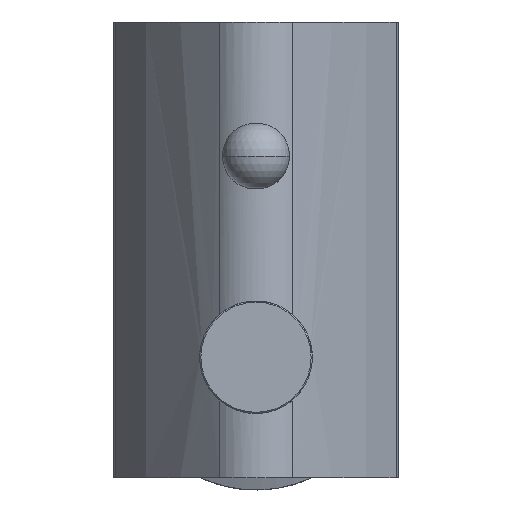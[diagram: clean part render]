
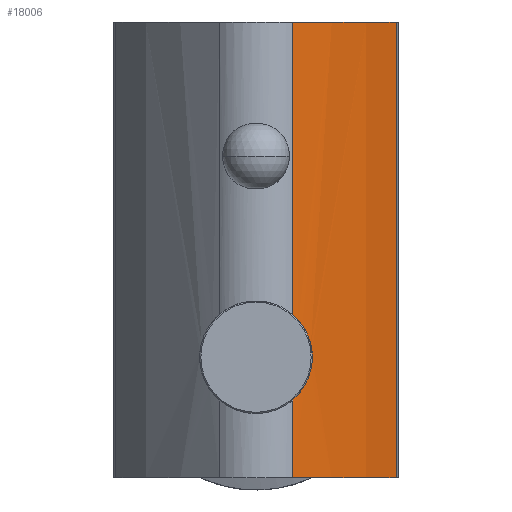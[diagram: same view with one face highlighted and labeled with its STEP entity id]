
A CAD part, front view. The second image highlights one B-rep face of the part: STEP entity #18006.
In plain terms, the highlighted cylindrical face has radius 20 mm (diameter 40 mm), a partial arc.
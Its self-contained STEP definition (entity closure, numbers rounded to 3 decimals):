
#65 = CYLINDRICAL_SURFACE ( 'NONE', #71626, 20. ) ;
#2326 = ORIENTED_EDGE ( 'NONE', *, *, #40793, .T. ) ;
#2632 = CARTESIAN_POINT ( 'NONE',  ( -1.47, 1.506, -6.364 ) ) ;
#3060 = CARTESIAN_POINT ( 'NONE',  ( -1.952, 0.79, -5.89 ) ) ;
#3331 = AXIS2_PLACEMENT_3D ( 'NONE', #73931, #8362, #35440 ) ;
#3489 = CARTESIAN_POINT ( 'NONE',  ( -1.818, 1.062, -6.024 ) ) ;
#4748 = CARTESIAN_POINT ( 'NONE',  ( -1.739, -1.186, -6.103 ) ) ;
#4878 = DIRECTION ( 'NONE',  ( 0., 0., 1. ) ) ;
#6668 = EDGE_CURVE ( 'NONE', #60075, #58674, #58726, .T. ) ;
#7937 = ORIENTED_EDGE ( 'NONE', *, *, #6668, .T. ) ;
#8362 = DIRECTION ( 'NONE',  ( 0., 1., 0. ) ) ;
#12631 = VERTEX_POINT ( 'NONE', #74255 ) ;
#14632 = VERTEX_POINT ( 'NONE', #16010 ) ;
#16010 = CARTESIAN_POINT ( 'NONE',  ( -1.367, -4.5, -6.46 ) ) ;
#18006 = ADVANCED_FACE ( 'NONE', ( #33271 ), #65, .T. ) ;
#18293 = CARTESIAN_POINT ( 'NONE',  ( -2.1, 0., -5.737 ) ) ;
#18871 = VECTOR ( 'NONE', #52006, 1000. ) ;
#21881 = CARTESIAN_POINT ( 'NONE',  ( -2.006, 0.643, -5.835 ) ) ;
#21906 = EDGE_LOOP ( 'NONE', ( #49286, #69327, #68470, #75272, #7937, #2326, #64345 ) ) ;
#22255 = EDGE_CURVE ( 'NONE', #14632, #58962, #80080, .T. ) ;
#22920 = VECTOR ( 'NONE', #61461, 1000. ) ;
#25708 = CARTESIAN_POINT ( 'NONE',  ( -1.565, -1.407, -6.272 ) ) ;
#26257 = DIRECTION ( 'NONE',  ( 0., -1., 0. ) ) ;
#28196 = DIRECTION ( 'NONE',  ( 0., -1., 0. ) ) ;
#29754 = CARTESIAN_POINT ( 'NONE',  ( -5.226, 12.5, -1.489 ) ) ;
#30299 = VERTEX_POINT ( 'NONE', #72098 ) ;
#31838 = CARTESIAN_POINT ( 'NONE',  ( -1.818, -1.061, -6.024 ) ) ;
#32072 = DIRECTION ( 'NONE',  ( 0., 0., 1. ) ) ;
#32602 = EDGE_CURVE ( 'NONE', #58962, #60075, #54903, .T. ) ;
#33113 = CARTESIAN_POINT ( 'NONE',  ( -5.226, 12.5, -1.489 ) ) ;
#33271 = FACE_OUTER_BOUND ( 'NONE', #21906, .T. ) ;
#35440 = DIRECTION ( 'NONE',  ( 0., 0., 1. ) ) ;
#35841 = CARTESIAN_POINT ( 'NONE',  ( -2.1, 0.166, -5.737 ) ) ;
#36695 = EDGE_CURVE ( 'NONE', #12631, #72681, #56296, .T. ) ;
#38062 = CARTESIAN_POINT ( 'NONE',  ( -1.367, 12.5, -6.46 ) ) ;
#38080 = CARTESIAN_POINT ( 'NONE',  ( 12.305, 12.5, 8.137 ) ) ;
#40793 = EDGE_CURVE ( 'NONE', #58674, #30299, #78685, .T. ) ;
#41464 = EDGE_CURVE ( 'NONE', #12631, #14632, #79126, .T. ) ;
#43907 = VECTOR ( 'NONE', #26257, 1000. ) ;
#49286 = ORIENTED_EDGE ( 'NONE', *, *, #36695, .F. ) ;
#49365 = CARTESIAN_POINT ( 'NONE',  ( -1.367, 1.594, -6.46 ) ) ;
#49792 = CARTESIAN_POINT ( 'NONE',  ( -2.1, 0., -5.737 ) ) ;
#52006 = DIRECTION ( 'NONE',  ( 0., -1., 0. ) ) ;
#52333 = CARTESIAN_POINT ( 'NONE',  ( -2.1, -0.166, -5.737 ) ) ;
#52779 = CARTESIAN_POINT ( 'NONE',  ( -2.005, -0.644, -5.835 ) ) ;
#53376 = B_SPLINE_CURVE_WITH_KNOTS ( 'NONE', 3,
 ( #49792, #35841, #62917, #21881, #3060, #3489, #62486, #69896, #2632, #49365 ),
 .UNSPECIFIED., .F., .F.,
 ( 4, 2, 2, 2, 4 ),
 ( 0.002, 0.002, 0.003, 0.003, 0.004 ),
 .UNSPECIFIED. ) ;
#54255 = CARTESIAN_POINT ( 'NONE',  ( -5.226, -4.5, -1.489 ) ) ;
#54903 = LINE ( 'NONE', #33113, #22920 ) ;
#56296 = B_SPLINE_CURVE_WITH_KNOTS ( 'NONE', 3,
 ( #85571, #65905, #25708, #4748, #31838, #71586, #52779, #78136, #52333, #18293 ),
 .UNSPECIFIED., .F., .F.,
 ( 4, 2, 2, 2, 4 ),
 ( 0., 0., 0.001, 0.001, 0.002 ),
 .UNSPECIFIED. ) ;
#58674 = VERTEX_POINT ( 'NONE', #80074 ) ;
#58726 = CIRCLE ( 'NONE', #69892, 20. ) ;
#58962 = VERTEX_POINT ( 'NONE', #54255 ) ;
#60075 = VERTEX_POINT ( 'NONE', #29754 ) ;
#61461 = DIRECTION ( 'NONE',  ( 0., 1., 0. ) ) ;
#62261 = CARTESIAN_POINT ( 'NONE',  ( 12.305, 12.5, 8.137 ) ) ;
#62486 = CARTESIAN_POINT ( 'NONE',  ( -1.74, 1.184, -6.102 ) ) ;
#62917 = CARTESIAN_POINT ( 'NONE',  ( -2.08, 0.329, -5.757 ) ) ;
#64345 = ORIENTED_EDGE ( 'NONE', *, *, #78914, .F. ) ;
#64734 = DIRECTION ( 'NONE',  ( 0., 1., 0. ) ) ;
#65905 = CARTESIAN_POINT ( 'NONE',  ( -1.47, -1.506, -6.363 ) ) ;
#68470 = ORIENTED_EDGE ( 'NONE', *, *, #22255, .T. ) ;
#69327 = ORIENTED_EDGE ( 'NONE', *, *, #41464, .T. ) ;
#69691 = CARTESIAN_POINT ( 'NONE',  ( -2.1, 0., -5.737 ) ) ;
#69892 = AXIS2_PLACEMENT_3D ( 'NONE', #62261, #28196, #32072 ) ;
#69896 = CARTESIAN_POINT ( 'NONE',  ( -1.566, 1.406, -6.271 ) ) ;
#71586 = CARTESIAN_POINT ( 'NONE',  ( -1.951, -0.791, -5.89 ) ) ;
#71626 = AXIS2_PLACEMENT_3D ( 'NONE', #38080, #64734, #4878 ) ;
#72098 = CARTESIAN_POINT ( 'NONE',  ( -1.367, 1.594, -6.46 ) ) ;
#72575 = CARTESIAN_POINT ( 'NONE',  ( -1.367, 12.5, -6.46 ) ) ;
#72681 = VERTEX_POINT ( 'NONE', #69691 ) ;
#73931 = CARTESIAN_POINT ( 'NONE',  ( 12.305, -4.5, 8.137 ) ) ;
#74255 = CARTESIAN_POINT ( 'NONE',  ( -1.367, -1.594, -6.46 ) ) ;
#75272 = ORIENTED_EDGE ( 'NONE', *, *, #32602, .T. ) ;
#78136 = CARTESIAN_POINT ( 'NONE',  ( -2.08, -0.33, -5.758 ) ) ;
#78685 = LINE ( 'NONE', #38062, #43907 ) ;
#78914 = EDGE_CURVE ( 'NONE', #72681, #30299, #53376, .T. ) ;
#79126 = LINE ( 'NONE', #72575, #18871 ) ;
#80074 = CARTESIAN_POINT ( 'NONE',  ( -1.367, 12.5, -6.46 ) ) ;
#80080 = CIRCLE ( 'NONE', #3331, 20. ) ;
#85571 = CARTESIAN_POINT ( 'NONE',  ( -1.367, -1.594, -6.46 ) ) ;
